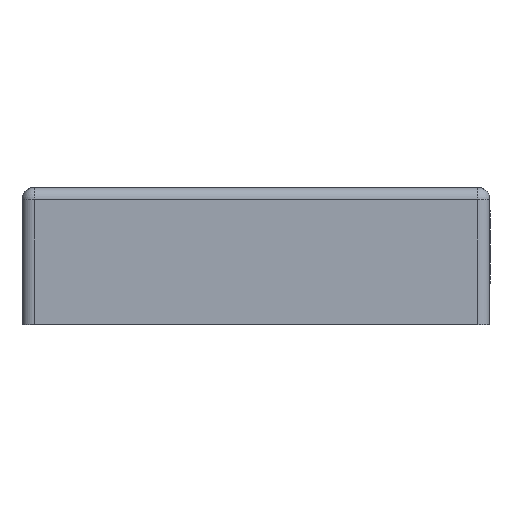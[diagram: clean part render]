
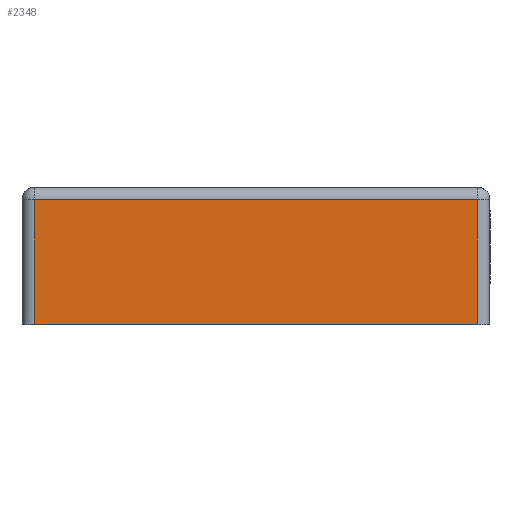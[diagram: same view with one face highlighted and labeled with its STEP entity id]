
A CAD part, front view. The second image highlights one B-rep face of the part: STEP entity #2348.
In plain terms, the highlighted planar face has unit normal (0, -1, -0.018).
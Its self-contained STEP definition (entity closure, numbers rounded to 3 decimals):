
#2348=ADVANCED_FACE('',(#3656),#2909,.F.);
#2909=PLANE('',#17598);
#3656=FACE_OUTER_BOUND('',#4522,.T.);
#4522=EDGE_LOOP('',(#8614,#8615,#8616,#8617));
#8614=ORIENTED_EDGE('',*,*,#13333,.T.);
#8615=ORIENTED_EDGE('',*,*,#13217,.T.);
#8616=ORIENTED_EDGE('',*,*,#13334,.T.);
#8617=ORIENTED_EDGE('',*,*,#11876,.T.);
#10084=VERTEX_POINT('',#23639);
#10127=VERTEX_POINT('',#23752);
#10909=VERTEX_POINT('',#28409);
#10973=VERTEX_POINT('',#28647);
#11876=EDGE_CURVE('',#10084,#10127,#14002,.T.);
#13217=EDGE_CURVE('',#10973,#10909,#14878,.T.);
#13333=EDGE_CURVE('',#10127,#10973,#14975,.T.);
#13334=EDGE_CURVE('',#10909,#10084,#14976,.T.);
#14002=LINE('',#23753,#15501);
#14878=LINE('',#28646,#16514);
#14975=LINE('',#28883,#16611);
#14976=LINE('',#28884,#16612);
#15501=VECTOR('',#18711,1.);
#16514=VECTOR('',#20908,1.);
#16611=VECTOR('',#21115,1.);
#16612=VECTOR('',#21116,1.);
#17598=AXIS2_PLACEMENT_3D('',#28885,#21117,#21118);
#18711=DIRECTION('',(0.,0.017,-1.));
#20908=DIRECTION('',(0.,-0.017,1.));
#21115=DIRECTION('',(1.,0.,0.));
#21116=DIRECTION('',(-1.,0.,0.));
#21117=DIRECTION('',(0.,1.,0.017));
#21118=DIRECTION('',(0.,-0.017,1.));
#23639=CARTESIAN_POINT('',(-42.508,25.707,0.));
#23752=CARTESIAN_POINT('',(-42.508,25.977,-15.474));
#23753=CARTESIAN_POINT('',(-42.508,25.842,-7.737));
#28409=CARTESIAN_POINT('',(12.492,25.707,0.));
#28646=CARTESIAN_POINT('',(12.492,25.842,-7.737));
#28647=CARTESIAN_POINT('',(12.492,25.977,-15.474));
#28883=CARTESIAN_POINT('',(-1.258,25.977,-15.474));
#28884=CARTESIAN_POINT('',(-1.258,25.707,0.));
#28885=CARTESIAN_POINT('',(13.992,25.706,0.029));
